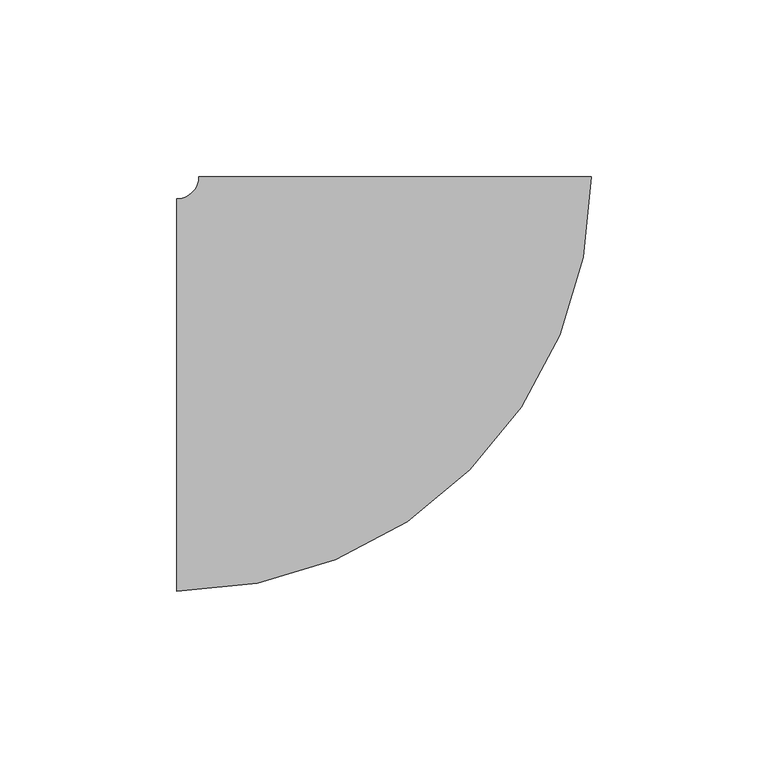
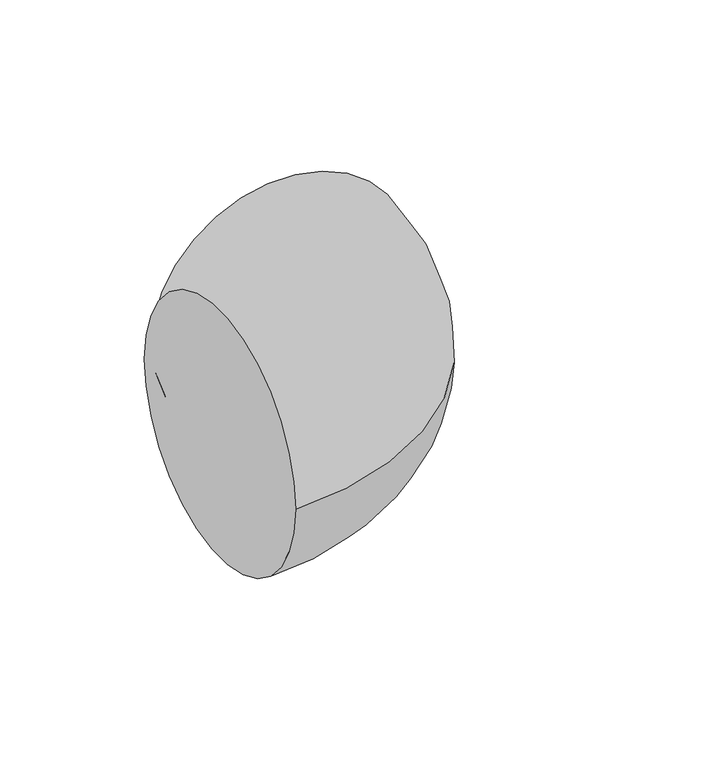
"""IFC4 building model written with IfcOpenShell, lengths in millimetres: pipe fitting geometry, M_Codo - Genérico : Estándar."""

from ifc_helpers import new_model, si_unit, point, frame, origin, place, context, project, spatial, circle_curve, ellipse_curve, trimmed, source, transform, mapped, element, save
from ifc_brep_helpers import plane_surface, revolved_surface, advanced_brep


def pipe_fitting_be04a11b(model_context):
    return source(origin(), model_context, "Body", "AdvancedBrep", [
        advanced_brep(
        [(-61.9375, -55.5875, 0.0), (-61.9375, 55.5875, 0.0), (55.5875, 61.9375, 0.0), (-55.5875, 61.9375, 0.0)],
        [
            (0, 1, circle_curve(frame((-61.9375, 0.0, 0.0), z_axis=(-1.0, 0.0, 0.0), x_axis=(0.0, 1.0, 0.0)), 55.5875)),
            (1, 0, circle_curve(frame((-61.9375, 0.0, 0.0), z_axis=(-1.0, 0.0, 0.0), x_axis=(0.0, 1.0, 0.0)), 55.5875)),
            (2, 3, circle_curve(frame((0.0, 61.9375, 0.0), z_axis=(0.0, 1.0, 0.0), x_axis=(-1.0, 0.0, 0.0)), 55.5875)),
            (3, 2, circle_curve(frame((0.0, 61.9375, 0.0), z_axis=(0.0, 1.0, 0.0), x_axis=(-1.0, 0.0, 0.0)), 55.5875)),
            (3, 1, circle_curve(frame((-61.9375, 61.9375, 0.0), z_axis=(0.0, 0.0, -1.0), x_axis=(0.0, -1.0, 0.0)), 6.35)),
            (0, 2, circle_curve(frame((-61.9375, 61.9375, 0.0), z_axis=(0.0, 0.0, 1.0), x_axis=(0.0, -1.0, 0.0)), 117.525)),
        ],
        [
            plane_surface(frame((-61.9375, 0.0, 0.0), z_axis=(-1.0, 0.0, 0.0), x_axis=(0.0, 0.0, 1.0))),
            plane_surface(frame((0.0, 61.9375, 0.0), z_axis=(0.0, 1.0, 0.0), x_axis=(0.0, 0.0, 1.0))),
            revolved_surface(trimmed(ellipse_curve(frame((-61.9375, 0.0, 0.0), z_axis=(-1.0, 0.0, 0.0), x_axis=(0.0, 1.0, 0.0)), 55.5875, 55.5875), [point((-61.9375, -55.5875, 0.0))], [point((-61.9375, 55.5875, 0.0))], True, "CARTESIAN"), (-61.9375, 61.9375, 0.0), (0.0, 0.0, 1.0)),
            revolved_surface(trimmed(ellipse_curve(frame((-61.9375, 0.0, 0.0), z_axis=(-1.0, 0.0, 0.0), x_axis=(0.0, 1.0, 0.0)), 55.5875, 55.5875), [point((-61.9375, 55.5875, 0.0))], [point((-61.9375, -55.5875, 0.0))], True, "CARTESIAN"), (-61.9375, 61.9375, 0.0), (0.0, 0.0, 1.0)),
        ],
        [
            (0, [[1, 2]]),
            (1, [[3, 4]]),
            (2, [[5, -1, 6, -4]]),
            (3, [[-6, -2, -5, -3]]),
        ],
    ),
    ])


if __name__ == "__main__":
    model = new_model("IFC4")
    model_context = context("Model", 3, world=origin())
    ifc_project = project(units=[si_unit("LENGTHUNIT", "METRE", prefix="MILLI")], contexts=[model_context])
    site = spatial("IfcSite", under=ifc_project)
    building = spatial("IfcBuilding", under=site)
    placement = place(None, origin())
    pipe_fitting_shape = pipe_fitting_be04a11b(model_context)
    element("IfcPipeFitting", 1, ObjectType="M_Codo - Genérico : Estándar", at=placement, inside=building, context=model_context, shape_type="MappedRepresentation", body=[
        mapped(pipe_fitting_shape, transform((0.0, 0.0, 0.0), x_axis=(1.0, 0.0, 0.0), y_axis=(0.0, 1.0, 0.0), z_axis=(0.0, 0.0, 1.0))),
    ])
    save(model, "model.ifc")
